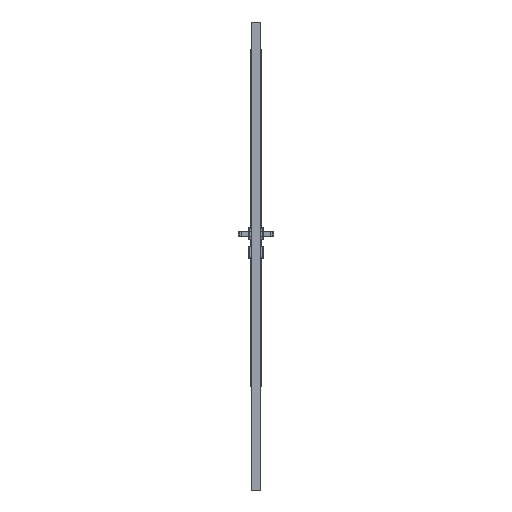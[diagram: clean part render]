
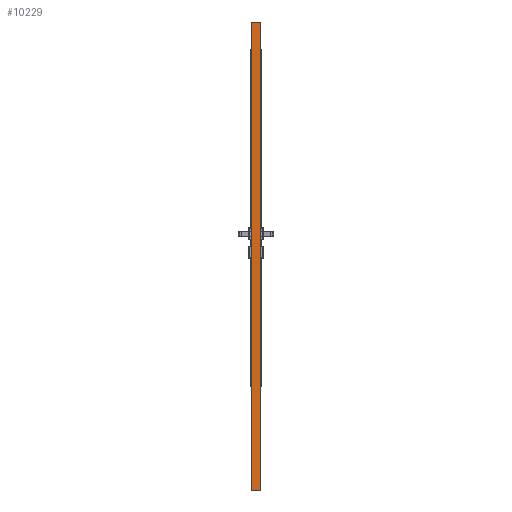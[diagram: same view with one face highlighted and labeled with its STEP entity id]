
A CAD part, left-side view. The second image highlights one B-rep face of the part: STEP entity #10229.
In plain terms, the highlighted planar face has unit normal (-1, 0, 0).
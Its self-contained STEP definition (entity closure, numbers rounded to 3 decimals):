
#6281=FACE_OUTER_BOUND('',#17699,.T.);
#10229=ADVANCED_FACE('',(#6281),#14029,.F.);
#14029=PLANE('',#72094);
#17699=EDGE_LOOP('',(#22887,#22888,#22889,#22890,#22891,#22892));
#22887=ORIENTED_EDGE('',*,*,#48711,.T.);
#22888=ORIENTED_EDGE('',*,*,#48712,.T.);
#22889=ORIENTED_EDGE('',*,*,#48713,.T.);
#22890=ORIENTED_EDGE('',*,*,#48714,.T.);
#22891=ORIENTED_EDGE('',*,*,#48715,.F.);
#22892=ORIENTED_EDGE('',*,*,#48716,.F.);
#41907=VERTEX_POINT('',#93846);
#41908=VERTEX_POINT('',#93847);
#41909=VERTEX_POINT('',#93849);
#41910=VERTEX_POINT('',#93851);
#41911=VERTEX_POINT('',#93853);
#41912=VERTEX_POINT('',#93855);
#48711=EDGE_CURVE('',#41907,#41908,#58377,.T.);
#48712=EDGE_CURVE('',#41908,#41909,#58378,.T.);
#48713=EDGE_CURVE('',#41909,#41910,#58379,.T.);
#48714=EDGE_CURVE('',#41910,#41911,#58380,.T.);
#48715=EDGE_CURVE('',#41912,#41911,#58381,.T.);
#48716=EDGE_CURVE('',#41907,#41912,#58382,.T.);
#58377=LINE('',#93845,#65163);
#58378=LINE('',#93848,#65164);
#58379=LINE('',#93850,#65165);
#58380=LINE('',#93852,#65166);
#58381=LINE('',#93854,#65167);
#58382=LINE('',#93856,#65168);
#65163=VECTOR('',#76702,1.);
#65164=VECTOR('',#76703,1.);
#65165=VECTOR('',#76704,1.);
#65166=VECTOR('',#76705,1.);
#65167=VECTOR('',#76706,1.);
#65168=VECTOR('',#76707,1.);
#72094=AXIS2_PLACEMENT_3D('',#93857,#76708,#76709);
#76702=DIRECTION('',(0.,0.,-1.));
#76703=DIRECTION('',(0.,-0.707,-0.707));
#76704=DIRECTION('',(0.,-1.,0.));
#76705=DIRECTION('',(0.,-0.707,0.707));
#76706=DIRECTION('',(0.,0.,-1.));
#76707=DIRECTION('',(0.,-1.,0.));
#76708=DIRECTION('',(1.,0.,0.));
#76709=DIRECTION('',(0.,0.,-1.));
#93845=CARTESIAN_POINT('',(-309.,0.,2017.));
#93846=CARTESIAN_POINT('',(-309.,0.,2017.));
#93847=CARTESIAN_POINT('',(-309.,0.,2.));
#93848=CARTESIAN_POINT('',(-309.,0.,2.));
#93849=CARTESIAN_POINT('',(-309.,-2.,0.));
#93850=CARTESIAN_POINT('',(-309.,0.,0.));
#93851=CARTESIAN_POINT('',(-309.,-37.3,0.));
#93852=CARTESIAN_POINT('',(-309.,-39.3,2.));
#93853=CARTESIAN_POINT('',(-309.,-39.3,2.));
#93854=CARTESIAN_POINT('',(-309.,-39.3,2017.));
#93855=CARTESIAN_POINT('',(-309.,-39.3,2017.));
#93856=CARTESIAN_POINT('',(-309.,0.,2017.));
#93857=CARTESIAN_POINT('',(-309.,0.,2017.));
